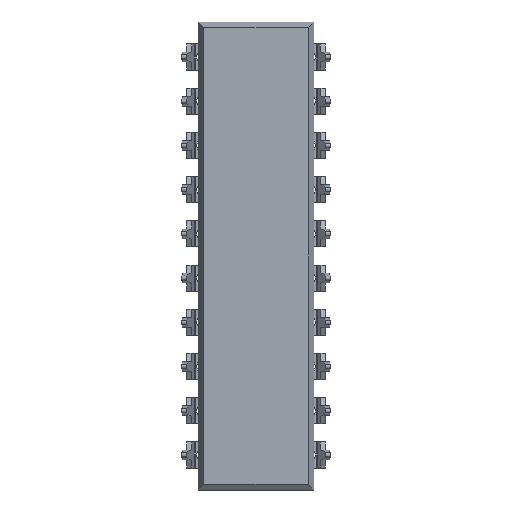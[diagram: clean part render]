
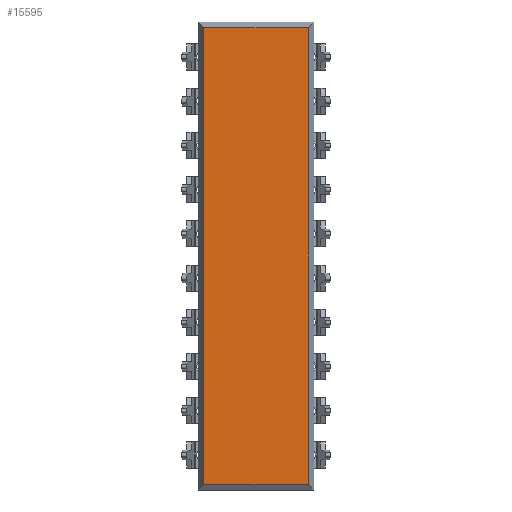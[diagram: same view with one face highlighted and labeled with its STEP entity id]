
A CAD part, front view. The second image highlights one B-rep face of the part: STEP entity #15595.
In plain terms, the highlighted planar face has unit normal (0, -1, 0).
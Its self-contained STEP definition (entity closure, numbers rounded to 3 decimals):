
#1167 = LINE ( 'NONE', #10834, #17706 ) ;
#1469 = VERTEX_POINT ( 'NONE', #5874 ) ;
#3352 = CARTESIAN_POINT ( 'NONE',  ( 3.325, 0., 0.328 ) ) ;
#3901 = VERTEX_POINT ( 'NONE', #7466 ) ;
#4636 = DIRECTION ( 'NONE',  ( -1., 0., 0. ) ) ;
#5691 = LINE ( 'NONE', #15354, #30757 ) ;
#5874 = CARTESIAN_POINT ( 'NONE',  ( 2.997, 0., 0.328 ) ) ;
#6712 = DIRECTION ( 'NONE',  ( 0., 0., 1. ) ) ;
#6985 = EDGE_CURVE ( 'NONE', #3901, #13268, #16677, .T. ) ;
#7466 = CARTESIAN_POINT ( 'NONE',  ( 2.997, 0., 26.552 ) ) ;
#7645 = CARTESIAN_POINT ( 'NONE',  ( -2.997, 0., 0.328 ) ) ;
#7813 = VERTEX_POINT ( 'NONE', #7645 ) ;
#9081 = PLANE ( 'NONE',  #26735 ) ;
#10834 = CARTESIAN_POINT ( 'NONE',  ( -2.997, 0., 26.88 ) ) ;
#12683 = ORIENTED_EDGE ( 'NONE', *, *, #30060, .F. ) ;
#13017 = DIRECTION ( 'NONE',  ( -1., 0., 0. ) ) ;
#13268 = VERTEX_POINT ( 'NONE', #21346 ) ;
#14133 = EDGE_CURVE ( 'NONE', #3901, #1469, #5691, .T. ) ;
#15354 = CARTESIAN_POINT ( 'NONE',  ( 2.997, 0., 26.88 ) ) ;
#15595 = ADVANCED_FACE ( 'NONE', ( #30833 ), #9081, .F. ) ;
#16677 = LINE ( 'NONE', #26384, #21078 ) ;
#17706 = VECTOR ( 'NONE', #20514, 1000. ) ;
#18768 = CARTESIAN_POINT ( 'NONE',  ( -2.997, 0., 26.88 ) ) ;
#20514 = DIRECTION ( 'NONE',  ( 0., 0., -1. ) ) ;
#21078 = VECTOR ( 'NONE', #4636, 1000. ) ;
#21346 = CARTESIAN_POINT ( 'NONE',  ( -2.997, 0., 26.552 ) ) ;
#21616 = ORIENTED_EDGE ( 'NONE', *, *, #6985, .T. ) ;
#23868 = VECTOR ( 'NONE', #13017, 1000. ) ;
#24664 = EDGE_LOOP ( 'NONE', ( #29717, #21616, #30749, #12683 ) ) ;
#25036 = DIRECTION ( 'NONE',  ( 0., 0., -1. ) ) ;
#25075 = LINE ( 'NONE', #3352, #23868 ) ;
#25337 = EDGE_CURVE ( 'NONE', #13268, #7813, #1167, .T. ) ;
#26384 = CARTESIAN_POINT ( 'NONE',  ( 3.325, 0., 26.552 ) ) ;
#26735 = AXIS2_PLACEMENT_3D ( 'NONE', #18768, #28455, #6712 ) ;
#28455 = DIRECTION ( 'NONE',  ( 0., 1., 0. ) ) ;
#29717 = ORIENTED_EDGE ( 'NONE', *, *, #14133, .F. ) ;
#30060 = EDGE_CURVE ( 'NONE', #1469, #7813, #25075, .T. ) ;
#30749 = ORIENTED_EDGE ( 'NONE', *, *, #25337, .T. ) ;
#30757 = VECTOR ( 'NONE', #25036, 1000. ) ;
#30833 = FACE_OUTER_BOUND ( 'NONE', #24664, .T. ) ;
